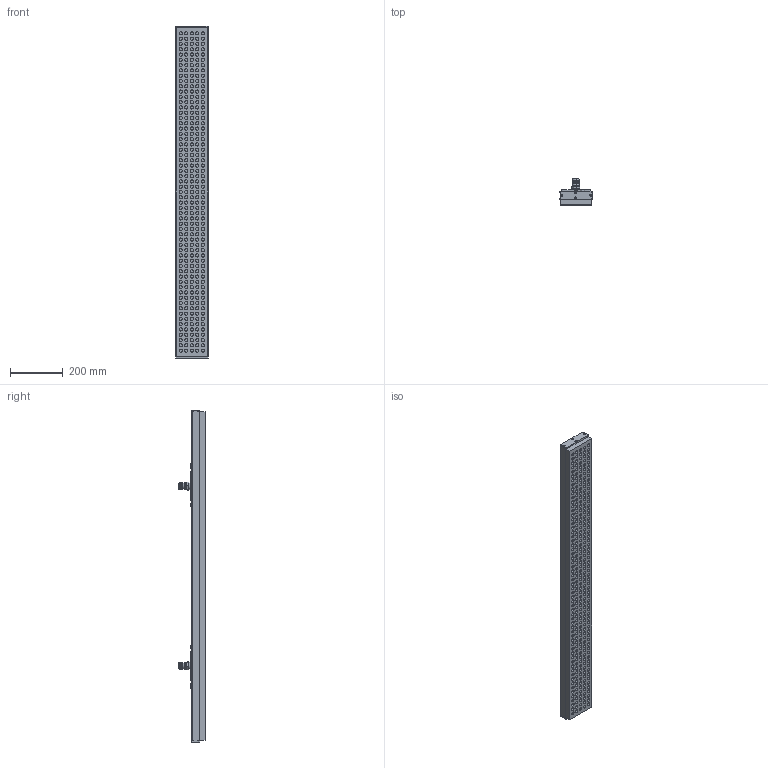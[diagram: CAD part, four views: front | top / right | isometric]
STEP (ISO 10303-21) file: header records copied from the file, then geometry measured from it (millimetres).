
FILE_DESCRIPTION (( 'STEP AP214' ), '1' );
FILE_NAME ('311 250 015.STEP', '2018-01-10T09:51:18', ( '' ), ( '' ), 'SwSTEP 2.0', 'SolidWorks 2017', '' );
FILE_SCHEMA (( 'AUTOMOTIVE_DESIGN' ));
Length unit declared in the file: millimetre
Products named in the file (1): 311 250 015
Bounding box: 121.5 x 98.5 x 1256 mm (x, y, z)
Volume: 6946541 mm3; surface area: 717984.8 mm2
Topology: 1 solids, 1 shells, 1723 faces, 3740 edges, 2392 vertices
Faces by surface type: cylinder 918, plane 545, torus 172, cone 68, bspline 12, sphere 8
Entity records: 67557 total; most frequent: DIRECTION 9308, CARTESIAN_POINT 9004, ORIENTED_EDGE 7440, AXIS2_PLACEMENT_3D 3964, EDGE_CURVE 3720, VERTEX_POINT 2380, CIRCLE 2252, EDGE_LOOP 2108
